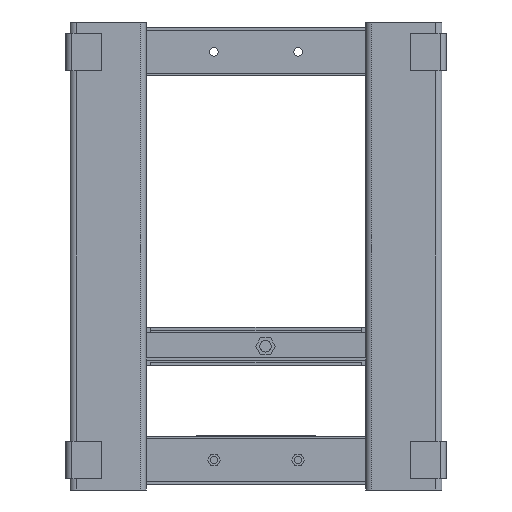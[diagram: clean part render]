
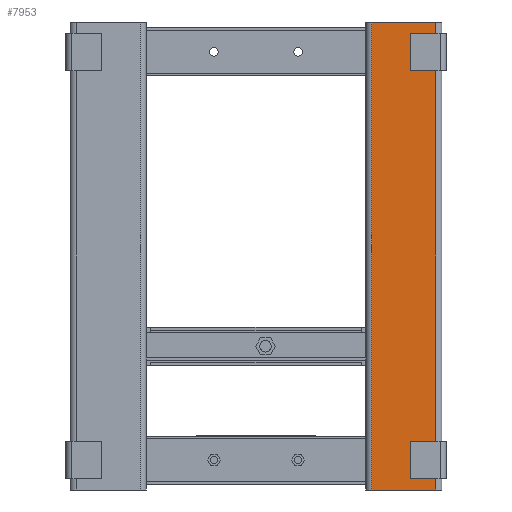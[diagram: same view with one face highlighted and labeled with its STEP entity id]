
A CAD part, front view. The second image highlights one B-rep face of the part: STEP entity #7953.
In plain terms, the highlighted planar face has unit normal (0, -1, 0).
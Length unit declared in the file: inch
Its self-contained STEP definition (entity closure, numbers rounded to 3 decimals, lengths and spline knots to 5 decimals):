
#723=FACE_OUTER_BOUND('',#1175,.T.);
#1175=EDGE_LOOP('',(#6527,#6528,#6529,#6530,#6531,#6532,#6533,#6534,#6535,
#6536,#6537,#6538));
#1941=LINE('',#12433,#2807);
#1947=LINE('',#12448,#2813);
#1956=LINE('',#12467,#2822);
#1977=LINE('',#12517,#2843);
#1982=LINE('',#12531,#2848);
#1992=LINE('',#12551,#2858);
#1996=LINE('',#12560,#2862);
#1997=LINE('',#12562,#2863);
#1998=LINE('',#12564,#2864);
#1999=LINE('',#12566,#2865);
#2000=LINE('',#12567,#2866);
#2001=LINE('',#12568,#2867);
#2807=VECTOR('',#10199,0.3937);
#2813=VECTOR('',#10215,0.3937);
#2822=VECTOR('',#10236,0.3937);
#2843=VECTOR('',#10279,0.3937);
#2848=VECTOR('',#10292,0.3937);
#2858=VECTOR('',#10314,0.3937);
#2862=VECTOR('',#10322,0.3937);
#2863=VECTOR('',#10323,0.3937);
#2864=VECTOR('',#10324,0.3937);
#2865=VECTOR('',#10325,0.3937);
#2866=VECTOR('',#10326,0.3937);
#2867=VECTOR('',#10327,0.3937);
#3550=VERTEX_POINT('',#12430);
#3551=VERTEX_POINT('',#12432);
#3554=VERTEX_POINT('',#12443);
#3555=VERTEX_POINT('',#12447);
#3573=VERTEX_POINT('',#12506);
#3574=VERTEX_POINT('',#12507);
#3577=VERTEX_POINT('',#12516);
#3582=VERTEX_POINT('',#12530);
#3589=VERTEX_POINT('',#12559);
#3590=VERTEX_POINT('',#12561);
#3591=VERTEX_POINT('',#12563);
#3592=VERTEX_POINT('',#12565);
#4541=EDGE_CURVE('',#3551,#3550,#1941,.T.);
#4549=EDGE_CURVE('',#3550,#3555,#1947,.T.);
#4559=EDGE_CURVE('',#3555,#3554,#1956,.T.);
#4584=EDGE_CURVE('',#3577,#3574,#1977,.T.);
#4591=EDGE_CURVE('',#3582,#3577,#1982,.T.);
#4602=EDGE_CURVE('',#3573,#3582,#1992,.T.);
#4606=EDGE_CURVE('',#3554,#3589,#1996,.T.);
#4607=EDGE_CURVE('',#3590,#3589,#1997,.T.);
#4608=EDGE_CURVE('',#3591,#3590,#1998,.T.);
#4609=EDGE_CURVE('',#3591,#3592,#1999,.T.);
#4610=EDGE_CURVE('',#3592,#3573,#2000,.T.);
#4611=EDGE_CURVE('',#3574,#3551,#2001,.T.);
#6527=ORIENTED_EDGE('',*,*,#4559,.T.);
#6528=ORIENTED_EDGE('',*,*,#4606,.T.);
#6529=ORIENTED_EDGE('',*,*,#4607,.F.);
#6530=ORIENTED_EDGE('',*,*,#4608,.F.);
#6531=ORIENTED_EDGE('',*,*,#4609,.T.);
#6532=ORIENTED_EDGE('',*,*,#4610,.T.);
#6533=ORIENTED_EDGE('',*,*,#4602,.T.);
#6534=ORIENTED_EDGE('',*,*,#4591,.T.);
#6535=ORIENTED_EDGE('',*,*,#4584,.T.);
#6536=ORIENTED_EDGE('',*,*,#4611,.T.);
#6537=ORIENTED_EDGE('',*,*,#4541,.T.);
#6538=ORIENTED_EDGE('',*,*,#4549,.T.);
#7226=PLANE('',#8513);
#7953=ADVANCED_FACE('',(#723),#7226,.T.);
#8513=AXIS2_PLACEMENT_3D('',#12558,#10320,#10321);
#10199=DIRECTION('',(-1.,0.,0.));
#10215=DIRECTION('',(0.,0.,1.));
#10236=DIRECTION('',(1.,0.,0.));
#10279=DIRECTION('',(1.,0.,0.));
#10292=DIRECTION('',(0.,0.,1.));
#10314=DIRECTION('',(-1.,0.,0.));
#10320=DIRECTION('center_axis',(0.,-1.,0.));
#10321=DIRECTION('ref_axis',(1.,0.,0.));
#10322=DIRECTION('',(0.,0.,1.));
#10323=DIRECTION('',(1.,0.,0.));
#10324=DIRECTION('',(0.,0.,1.));
#10325=DIRECTION('',(1.,0.,0.));
#10326=DIRECTION('',(0.,0.,1.));
#10327=DIRECTION('',(0.,0.,1.));
#12430=CARTESIAN_POINT('',(12.845,0.,34.945));
#12432=CARTESIAN_POINT('',(15.,0.,34.945));
#12433=CARTESIAN_POINT('',(12.,0.,34.945));
#12443=CARTESIAN_POINT('',(15.,0.,38.095));
#12447=CARTESIAN_POINT('',(12.845,0.,38.095));
#12448=CARTESIAN_POINT('',(12.845,0.,18.26));
#12467=CARTESIAN_POINT('',(12.,0.,38.095));
#12506=CARTESIAN_POINT('',(15.,0.,0.925));
#12507=CARTESIAN_POINT('',(15.,0.,4.075));
#12516=CARTESIAN_POINT('',(12.845,0.,4.075));
#12517=CARTESIAN_POINT('',(12.,0.,4.075));
#12530=CARTESIAN_POINT('',(12.845,0.,0.925));
#12531=CARTESIAN_POINT('',(12.845,0.,1.25));
#12551=CARTESIAN_POINT('',(12.,0.,0.925));
#12558=CARTESIAN_POINT('Origin',(9.655,0.,0.));
#12559=CARTESIAN_POINT('',(15.,0.,39.02));
#12560=CARTESIAN_POINT('',(15.,0.,0.));
#12561=CARTESIAN_POINT('',(9.655,0.,39.02));
#12562=CARTESIAN_POINT('',(9.655,0.,39.02));
#12563=CARTESIAN_POINT('',(9.655,0.,0.));
#12564=CARTESIAN_POINT('',(9.655,0.,0.));
#12565=CARTESIAN_POINT('',(15.,0.,0.));
#12566=CARTESIAN_POINT('',(9.655,0.,0.));
#12567=CARTESIAN_POINT('',(15.,0.,0.));
#12568=CARTESIAN_POINT('',(15.,0.,0.));
